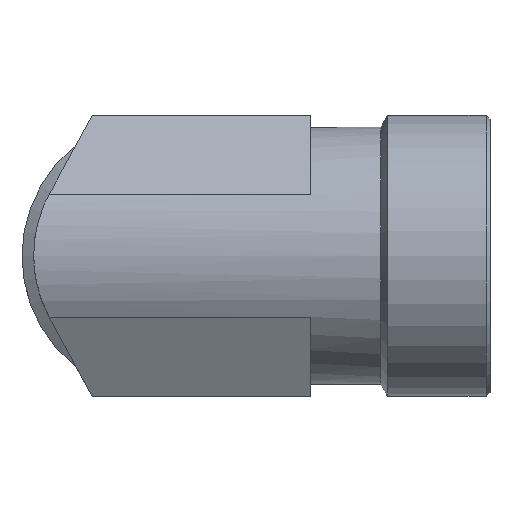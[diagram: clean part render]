
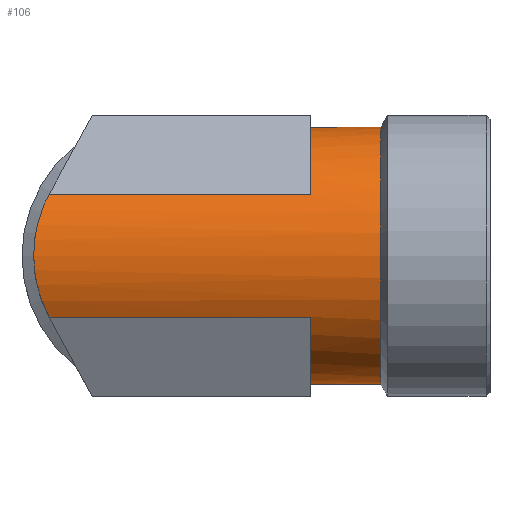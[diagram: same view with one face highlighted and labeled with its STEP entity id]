
A CAD part, top view. The second image highlights one B-rep face of the part: STEP entity #106.
In plain terms, the highlighted cylindrical face has radius 16.5 mm (diameter 33 mm), a full revolution.
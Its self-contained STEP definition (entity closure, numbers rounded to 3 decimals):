
#106 = ADVANCED_FACE( '', ( #232, #233 ), #234, .T. );
#232 = FACE_OUTER_BOUND( '', #371, .T. );
#233 = FACE_OUTER_BOUND( '', #372, .T. );
#234 = CYLINDRICAL_SURFACE( '', #373, 16.5 );
#371 = EDGE_LOOP( '', ( #579, #580, #581, #582, #583, #584, #585, #586 ) );
#372 = EDGE_LOOP( '', ( #587 ) );
#373 = AXIS2_PLACEMENT_3D( '', #588, #589, #590 );
#579 = ORIENTED_EDGE( '', *, *, #721, .T. );
#580 = ORIENTED_EDGE( '', *, *, #767, .F. );
#581 = ORIENTED_EDGE( '', *, *, #777, .F. );
#582 = ORIENTED_EDGE( '', *, *, #778, .F. );
#583 = ORIENTED_EDGE( '', *, *, #779, .F. );
#584 = ORIENTED_EDGE( '', *, *, #763, .F. );
#585 = ORIENTED_EDGE( '', *, *, #732, .F. );
#586 = ORIENTED_EDGE( '', *, *, #780, .F. );
#587 = ORIENTED_EDGE( '', *, *, #742, .T. );
#588 = CARTESIAN_POINT( '', ( -60., 0., 0. ) );
#589 = DIRECTION( '', ( 1., 0., 0. ) );
#590 = DIRECTION( '', ( 0., 0., 1. ) );
#721 = EDGE_CURVE( '', #832, #833, #834, .T. );
#732 = EDGE_CURVE( '', #850, #852, #853, .T. );
#742 = EDGE_CURVE( '', #865, #865, #866, .T. );
#763 = EDGE_CURVE( '', #852, #897, #898, .F. );
#767 = EDGE_CURVE( '', #902, #833, #904, .F. );
#777 = EDGE_CURVE( '', #876, #902, #916, .F. );
#778 = EDGE_CURVE( '', #917, #876, #918, .T. );
#779 = EDGE_CURVE( '', #897, #917, #919, .T. );
#780 = EDGE_CURVE( '', #832, #850, #920, .T. );
#832 = VERTEX_POINT( '', #980 );
#833 = VERTEX_POINT( '', #981 );
#834 = LINE( '', #982, #983 );
#850 = VERTEX_POINT( '', #1003 );
#852 = VERTEX_POINT( '', #1006 );
#853 = LINE( '', #1007, #1008 );
#865 = VERTEX_POINT( '', #1021 );
#866 = CIRCLE( '', #1022, 16.5 );
#876 = VERTEX_POINT( '', #1033 );
#897 = VERTEX_POINT( '', #1058 );
#898 = CIRCLE( '', #1059, 16.5 );
#902 = VERTEX_POINT( '', #1064 );
#904 = CIRCLE( '', #1067, 16.5 );
#916 = LINE( '', #1083, #1084 );
#917 = VERTEX_POINT( '', #1085 );
#918 = ELLIPSE( '', #1086, 23.335, 16.5 );
#919 = LINE( '', #1087, #1088 );
#920 = ELLIPSE( '', #1089, 23.335, 16.5 );
#980 = CARTESIAN_POINT( '', ( -14.499, -7.875, 14.499 ) );
#981 = CARTESIAN_POINT( '', ( 19., -7.875, 14.499 ) );
#982 = CARTESIAN_POINT( '', ( -16., -7.875, 14.499 ) );
#983 = VECTOR( '', #1163, 1000. );
#1003 = CARTESIAN_POINT( '', ( -14.499, 7.875, 14.499 ) );
#1006 = CARTESIAN_POINT( '', ( 19., 7.875, 14.499 ) );
#1007 = CARTESIAN_POINT( '', ( -16., 7.875, 14.499 ) );
#1008 = VECTOR( '', #1178, 1000. );
#1021 = CARTESIAN_POINT( '', ( 28., 0., 16.5 ) );
#1022 = AXIS2_PLACEMENT_3D( '', #1195, #1196, #1197 );
#1033 = CARTESIAN_POINT( '', ( 9., -13.829, -9. ) );
#1058 = CARTESIAN_POINT( '', ( 19., 13.829, -9. ) );
#1059 = AXIS2_PLACEMENT_3D( '', #1224, #1225, #1226 );
#1064 = CARTESIAN_POINT( '', ( 19., -13.829, -9. ) );
#1067 = AXIS2_PLACEMENT_3D( '', #1229, #1230, #1231 );
#1083 = CARTESIAN_POINT( '', ( -60., -13.829, -9. ) );
#1084 = VECTOR( '', #1239, 1000. );
#1085 = CARTESIAN_POINT( '', ( 9., 13.829, -9. ) );
#1086 = AXIS2_PLACEMENT_3D( '', #1240, #1241, #1242 );
#1087 = CARTESIAN_POINT( '', ( -60., 13.829, -9. ) );
#1088 = VECTOR( '', #1243, 1000. );
#1089 = AXIS2_PLACEMENT_3D( '', #1244, #1245, #1246 );
#1163 = DIRECTION( '', ( 1., 0., 0. ) );
#1178 = DIRECTION( '', ( 1., 0., 0. ) );
#1195 = CARTESIAN_POINT( '', ( 28., 0., 0. ) );
#1196 = DIRECTION( '', ( -1., 0., 0. ) );
#1197 = DIRECTION( '', ( 0., 0., 1. ) );
#1224 = CARTESIAN_POINT( '', ( 19., 0., 0. ) );
#1225 = DIRECTION( '', ( 1., 0., 0. ) );
#1226 = DIRECTION( '', ( 0., 0., -1. ) );
#1229 = CARTESIAN_POINT( '', ( 19., 0., 0. ) );
#1230 = DIRECTION( '', ( 1., 0., 0. ) );
#1231 = DIRECTION( '', ( 0., 0., -1. ) );
#1239 = DIRECTION( '', ( -1., 0., 0. ) );
#1240 = CARTESIAN_POINT( '', ( 0., 0., 0. ) );
#1241 = DIRECTION( '', ( -0.707, 0., -0.707 ) );
#1242 = DIRECTION( '', ( -0.707, 0., 0.707 ) );
#1243 = DIRECTION( '', ( -1., 0., 0. ) );
#1244 = CARTESIAN_POINT( '', ( 0., 0., 0. ) );
#1245 = DIRECTION( '', ( -0.707, 0., -0.707 ) );
#1246 = DIRECTION( '', ( -0.707, 0., 0.707 ) );
